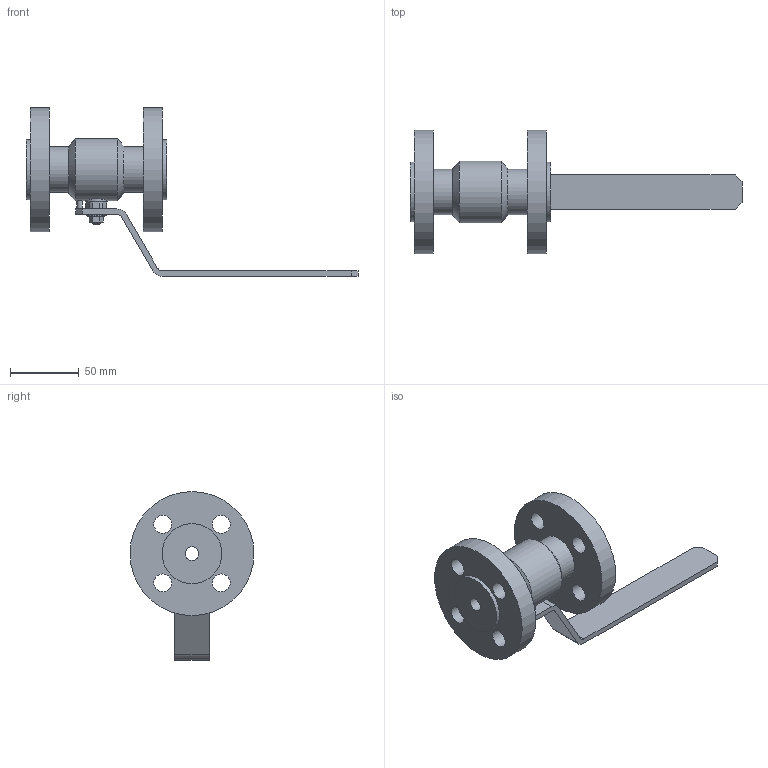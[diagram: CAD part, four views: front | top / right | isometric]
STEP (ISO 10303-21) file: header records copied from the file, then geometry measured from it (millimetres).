
FILE_DESCRIPTION(('STEP AP203'), '1');
FILE_NAME('ZARDP 010.016.21.P.stp', '2013-12-05T08:30:55', ('1'), ('1'), 'ASCON STEP Converter 1.3', 'Kompas 3D', '');
FILE_SCHEMA(('CONFIG_CONTROL_DESIGN','SUPPORT_RESOURCE_SCHEMA'));
Length unit declared in the file: millimetre
Products named in the file (1): 32
Bounding box: 241 x 90 x 122.5 mm (x, y, z)
Volume: 264953.6 mm3; surface area: 64131.1 mm2
Topology: 1 solids, 3 shells, 155 faces, 362 edges, 224 vertices
Faces by surface type: plane 86, cylinder 44, cone 22, torus 2, bspline 1
Full cylindrical faces by diameter (mm): 4 x2, 6 x2, 8.673 x1, 9 x1, 10 x3, 10.1 x1, 13 x8, 14.2 x1, 15.8 x1, 16 x3, 25.4 x1, 33 x2, 43.5 x2, 45 x1, 90 x2
Entity records: 5556 total; most frequent: CARTESIAN_POINT 1808, DIRECTION 795, ORIENTED_EDGE 722, EDGE_CURVE 361, AXIS2_PLACEMENT_3D 304, VERTEX_POINT 224, EDGE_LOOP 197, LINE 187
